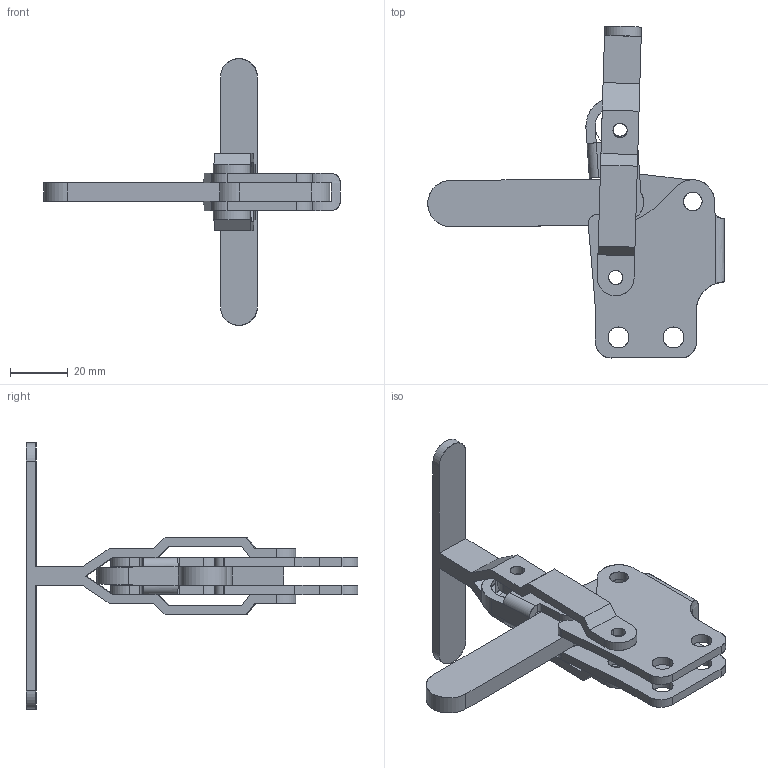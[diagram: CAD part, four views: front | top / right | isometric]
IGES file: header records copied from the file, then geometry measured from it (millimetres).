
Start section: SolidWorks IGES file using analytic representation for surfaces
Global section: file name: D:\GH Files\GH-SW-FILES\GH1\GH-12145,12146\12146\GH-12146.IGS; native system: SolidWorks 2006 by SolidWorks Corporation; preprocessor: SolidWorks 2006 by SolidWorks Corporation; author: Administrator; date: 060824.173022; units: millimetre
Bounding box: 102.44 x 114.59 x 92.1 mm (x, y, z)
Surface area: 26377.6 mm2 (no closed solid volume)
Topology: 0 solids, 0 shells, 164 faces, 2807 edges, 2807 vertices
Faces by surface type: revolution 88, bspline 76
